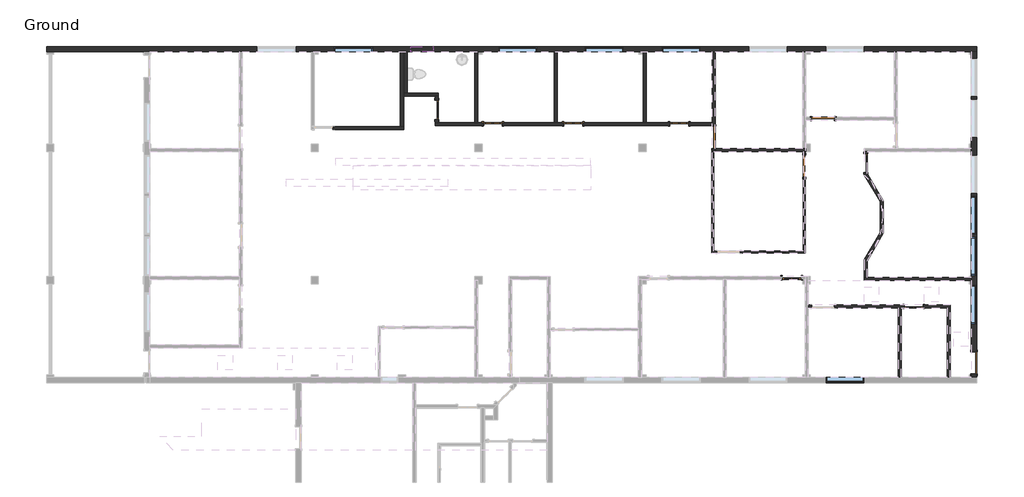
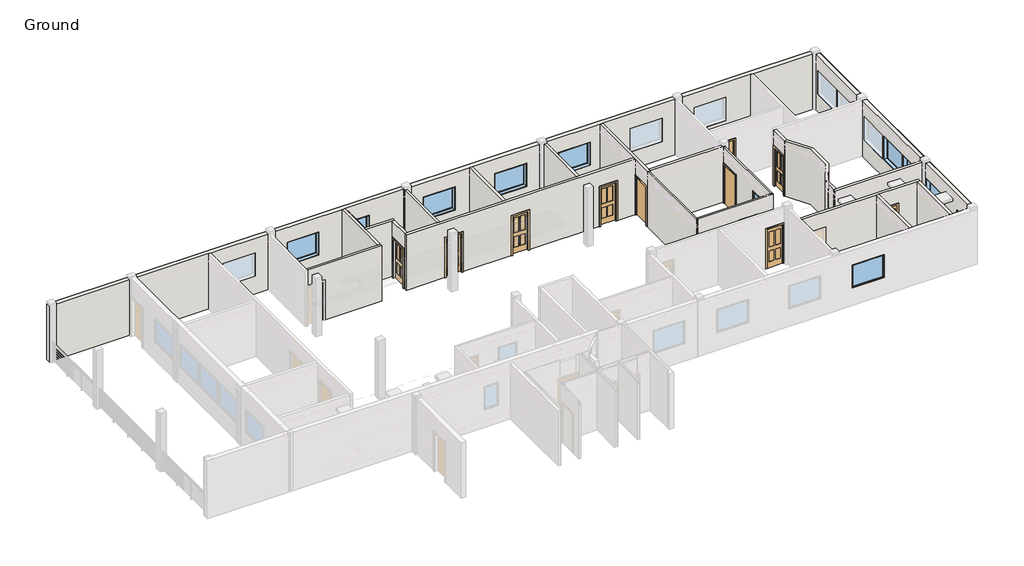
# One storey, part 3 of 4: 23 walls, 11 doors, 11 windows.
"""IFC4 building model written with IfcOpenShell, lengths in millimetres."""

from ifc_helpers import new_model, si_unit, point, frame, frame_2d, origin, origin_with_axes, place, context, project, spatial, polyline, circle_curve, trimmed, segment, composite_curve, outline, extrude, faceted_brep, transform, mapped, element, save
from components import door_43f271b1, door_0f3f7c0c, door_c0366a91, door_dce19e30, door_bfc1a142, door_dc1c1a0d, door_238e255b, fixed_3_x_3_w3_42a4cb5f, window_74e4fc61, window_a0bf6c86

model = new_model("IFC4")

# Units and contexts
model_context = context("Model", 3, world=origin())
ifc_project = project(units=[si_unit("LENGTHUNIT", "METRE", prefix="MILLI")], contexts=[model_context])

# Site, building, storey
site = spatial("IfcSite", under=ifc_project)
building = spatial("IfcBuilding", under=site)
storey = spatial("IfcBuildingStorey", under=building, Name="Ground", Elevation=0.0)

# Doors
placement = place(None, origin())
door_shape = door_43f271b1(model_context)
element("IfcDoor", 1, ObjectType="Single-Flush : 36\" x 80\" - D1", at=placement, inside=storey, context=model_context, shape_type="MappedRepresentation", body=[
    mapped(door_shape, transform((-16750.902824, 18800.73529, 0.0), x_axis=(0.0, -0.9999999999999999, 0.0), y_axis=(0.9999999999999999, 0.0, 0.0), z_axis=(0.0, 0.0, 1.0))),
])
door_2_shape = door_0f3f7c0c(model_context)
element("IfcDoor", 2, ObjectType="Single-Flush : 36\" x 80\" - D1", at=placement, inside=storey, context=model_context, shape_type="MappedRepresentation", body=[
    mapped(door_2_shape, transform((-12274.152824, 19570.67279, 0.0), x_axis=(-1.0, 0.0, 0.0), y_axis=(0.0, -1.0, 0.0), z_axis=(0.0, 0.0, 1.0))),
])
door_3_shape = door_c0366a91(model_context)
element("IfcDoor", 3, ObjectType="Single-Flush : 36\" x 80\" - D1", at=placement, inside=storey, context=model_context, shape_type="MappedRepresentation", body=[
    mapped(door_3_shape, transform((-13044.090324, 17627.57279, 0.0), x_axis=(0.0, 1.0, 0.0), y_axis=(-1.0, 0.0, 0.0), z_axis=(0.0, 0.0, 1.0))),
])
door_4_shape = door_dce19e30(model_context)
element("IfcDoor", 4, ObjectType="Single-Flush : 36\" x 80\" - D1", at=placement, inside=storey, context=model_context, shape_type="MappedRepresentation", body=[
    mapped(door_4_shape, transform((-6095.602824, 9569.42279, 0.0), x_axis=(0.0, -0.9999999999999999, 0.0), y_axis=(0.9999999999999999, 0.0, 0.0), z_axis=(0.0, 0.0, 1.0))),
])
door_5_shape = door_bfc1a142(model_context)
element("IfcDoor", 5, ObjectType="Single-Glass 3 : 30\" x 80\" - D3", at=placement, inside=storey, context=model_context, shape_type="MappedRepresentation", body=[
    mapped(door_5_shape, transform((-25786.952824, 19354.77279, 0.0), x_axis=(-1.0, 0.0, 0.0), y_axis=(0.0, -1.0, 0.0), z_axis=(0.0, 0.0, 1.0))),
])
element("IfcDoor", 6, ObjectType="Single-Glass 3 : 30\" x 80\" - D3", at=placement, inside=storey, context=model_context, shape_type="MappedRepresentation", body=[
    mapped(door_5_shape, transform((-10529.490324, 17754.57279, 0.0), x_axis=(0.0, 1.0, 0.0), y_axis=(-1.0, 0.0, 0.0), z_axis=(0.0, 0.0, 1.0))),
])
element("IfcDoor", 7, ObjectType="Single-Glass 3 : 30\" x 80\" - D3", at=placement, inside=storey, context=model_context, shape_type="MappedRepresentation", body=[
    mapped(door_5_shape, transform((-13556.852824, 13055.57279, 0.0), x_axis=(1.0, 0.0, 0.0), y_axis=(0.0, 1.0, 0.0), z_axis=(0.0, 0.0, 1.0))),
])
element("IfcDoor", 8, ObjectType="Single-Glass 3 : 30\" x 80\" - D3", at=placement, inside=storey, context=model_context, shape_type="MappedRepresentation", body=[
    mapped(door_5_shape, transform((-22497.652824, 19354.77279, 0.0), x_axis=(-1.0, 0.0, 0.0), y_axis=(0.0, -1.0, 0.0), z_axis=(0.0, 0.0, 1.0))),
])
door_6_shape = door_dc1c1a0d(model_context)
element("IfcDoor", 9, ObjectType="Single-Glass 3 : 30\" x 80\" - D3", at=placement, inside=storey, context=model_context, shape_type="MappedRepresentation", body=[
    mapped(door_6_shape, transform((-8567.340324, 11880.82279, 0.0), x_axis=(-0.9999999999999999, 0.0, 0.0), y_axis=(0.0, -0.9999999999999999, 0.0), z_axis=(0.0, 0.0, 1.0))),
])
element("IfcDoor", 10, ObjectType="Single-Glass 3 : 30\" x 80\" - D3", at=placement, inside=storey, context=model_context, shape_type="MappedRepresentation", body=[
    mapped(door_6_shape, transform((-18159.809074, 19354.77279, 0.0), x_axis=(1.0, 0.0, 0.0), y_axis=(0.0, 1.0, 0.0), z_axis=(0.0, 0.0, 1.0))),
])
door_7_shape = door_238e255b(model_context)
element("IfcDoor", 11, ObjectType="Single-Glass 3 : 32\" x 80\" - D2", at=placement, inside=storey, context=model_context, shape_type="MappedRepresentation", body=[
    mapped(door_7_shape, transform((-28079.302824, 19932.62279, 0.0), x_axis=(0.0, -1.0, 0.0), y_axis=(1.0, 0.0, 0.0), z_axis=(0.0, 0.0, 1.0))),
])

# Walls
element("IfcWall", 12, ObjectType="Generic - 6\"", at=placement, inside=storey, context=model_context, shape_type="SweptSolid", body=[
    extrude(outline(polyline([(-29439.790324, 20623.18529), (-29439.790324, 22307.52279), (-29287.390324, 22307.52279), (-29287.390324, 20623.18529), (-29439.790324, 20623.18529)])), origin_with_axes(), (0.0, 0.0, 1.0), 2743.2),
])
element("IfcWall", 13, ObjectType="Generic - 8\" Masonry existing", at=placement, inside=storey, context=model_context, shape_type="Brep", body=[
    faceted_brep([(-44043.202824, 22307.52279, 0.0), (-44043.202824, 22307.52279, 2895.6), (-44043.202824, 22513.89779, 2895.6), (-44043.202824, 22526.59779, 2895.6), (-44043.202824, 22526.59779, 0.0), (-5986.065324, 22307.52279, 0.0), (-6205.140324, 22307.52279, 0.0), (-9248.377824, 22307.52279, 0.0), (-9372.202824, 22307.52279, 0.0), (-12982.177824, 22307.52279, 0.0), (-13106.002824, 22307.52279, 0.0), (-16688.990324, 22307.52279, 0.0), (-16812.815324, 22307.52279, 0.0), (-19506.802824, 22307.52279, 0.0), (-19630.627824, 22307.52279, 0.0), (-23140.590324, 22307.52279, 0.0), (-23264.415324, 22307.52279, 0.0), (-26393.377824, 22307.52279, 0.0), (-26517.202824, 22307.52279, 0.0), (-29287.390324, 22307.52279, 0.0), (-29439.790324, 22307.52279, 0.0), (-29563.615324, 22307.52279, 0.0), (-33098.977824, 22307.52279, 0.0), (-33222.802824, 22307.52279, 0.0), (-36042.202824, 22307.52279, 0.0), (-36166.027824, 22307.52279, 0.0), (-39818.865324, 22307.52279, 0.0), (-40037.940324, 22307.52279, 0.0), (-5986.065324, 22526.59779, 0.0), (-5986.065324, 22307.52279, 2895.6), (-5998.765324, 22307.52279, 2895.6), (-6205.140324, 22307.52279, 2895.6), (-9248.377824, 22307.52279, 2895.6), (-9372.202824, 22307.52279, 2895.6), (-12982.177824, 22307.52279, 2895.6), (-13106.002824, 22307.52279, 2895.6), (-16688.990324, 22307.52279, 2895.6), (-16812.815324, 22307.52279, 2895.6), (-19506.802824, 22307.52279, 2895.6), (-19630.627824, 22307.52279, 2895.6), (-23140.590324, 22307.52279, 2895.6), (-23264.415324, 22307.52279, 2895.6), (-26393.377824, 22307.52279, 2895.6), (-26517.202824, 22307.52279, 2895.6), (-29439.790324, 22307.52279, 2895.6), (-29563.615324, 22307.52279, 2895.6), (-33098.977824, 22307.52279, 2895.6), (-33222.802824, 22307.52279, 2895.6), (-36042.202824, 22307.52279, 2895.6), (-36166.027824, 22307.52279, 2895.6), (-28220.590324, 22307.52279, 2133.6), (-28220.590324, 22307.52279, 1219.2), (-29134.990324, 22307.52279, 1219.2), (-29134.990324, 22307.52279, 2133.6), (-17297.002824, 22307.52279, 2133.6), (-17297.002824, 22307.52279, 914.4), (-18871.802824, 22307.52279, 914.4), (-18871.802824, 22307.52279, 2133.6), (-20446.602824, 22307.52279, 2133.6), (-20446.602824, 22307.52279, 914.4), (-22021.402824, 22307.52279, 914.4), (-22021.402824, 22307.52279, 2133.6), (-10591.402824, 22307.52279, 2133.6), (-10591.402824, 22307.52279, 914.4), (-12166.202824, 22307.52279, 914.4), (-12166.202824, 22307.52279, 2133.6), (-13741.002824, 22307.52279, 2133.6), (-13741.002824, 22307.52279, 914.4), (-15315.802824, 22307.52279, 914.4), (-15315.802824, 22307.52279, 2133.6), (-23977.202824, 22307.52279, 2133.6), (-23977.202824, 22307.52279, 914.4), (-25552.002824, 22307.52279, 914.4), (-25552.002824, 22307.52279, 2133.6), (-30708.202824, 22307.52279, 2133.6), (-30708.202824, 22307.52279, 914.4), (-32283.002824, 22307.52279, 914.4), (-32283.002824, 22307.52279, 2133.6), (-33857.802824, 22307.52279, 2133.6), (-33857.802824, 22307.52279, 914.4), (-35432.602824, 22307.52279, 914.4), (-35432.602824, 22307.52279, 2133.6), (-5998.765324, 22526.59779, 2895.6), (-5986.065324, 22526.59779, 2895.6), (-28220.590324, 22526.59779, 2133.6), (-29134.990324, 22526.59779, 2133.6), (-29134.990324, 22526.59779, 1219.2), (-28220.590324, 22526.59779, 1219.2), (-17297.002824, 22526.59779, 2133.6), (-18871.802824, 22526.59779, 2133.6), (-18871.802824, 22526.59779, 914.4), (-17297.002824, 22526.59779, 914.4), (-20446.602824, 22526.59779, 2133.6), (-22021.402824, 22526.59779, 2133.6), (-22021.402824, 22526.59779, 914.4), (-20446.602824, 22526.59779, 914.4), (-10591.402824, 22526.59779, 2133.6), (-12166.202824, 22526.59779, 2133.6), (-12166.202824, 22526.59779, 914.4), (-10591.402824, 22526.59779, 914.4), (-13741.002824, 22526.59779, 2133.6), (-15315.802824, 22526.59779, 2133.6), (-15315.802824, 22526.59779, 914.4), (-13741.002824, 22526.59779, 914.4), (-23977.202824, 22526.59779, 2133.6), (-25552.002824, 22526.59779, 2133.6), (-25552.002824, 22526.59779, 914.4), (-23977.202824, 22526.59779, 914.4), (-30708.202824, 22526.59779, 2133.6), (-32283.002824, 22526.59779, 2133.6), (-32283.002824, 22526.59779, 914.4), (-30708.202824, 22526.59779, 914.4), (-33857.802824, 22526.59779, 2133.6), (-35432.602824, 22526.59779, 2133.6), (-35432.602824, 22526.59779, 914.4), (-33857.802824, 22526.59779, 914.4), (-5986.065324, 22513.89779, 2895.6), (-5998.765324, 22513.89779, 2895.6)], [[[0, 1, 2, 3, 4]], [[5, 6, 7, 8, 9, 10, 11, 12, 13, 14, 15, 16, 17, 18, 19, 20, 21, 22, 23, 24, 25, 26, 27, 0, 4, 28]], [[0, 27, 26, 25, 24, 23, 22, 21, 20, 19, 18, 17, 16, 15, 14, 13, 12, 11, 10, 9, 8, 7, 6, 5, 29, 30, 31, 32, 33, 34, 35, 36, 37, 38, 39, 40, 41, 42, 43, 44, 45, 46, 47, 48, 49, 1], [50, 51, 52, 53], [54, 55, 56, 57], [58, 59, 60, 61], [62, 63, 64, 65], [66, 67, 68, 69], [70, 71, 72, 73], [74, 75, 76, 77], [78, 79, 80, 81]], [[4, 3, 82, 83, 28], [84, 85, 86, 87], [88, 89, 90, 91], [92, 93, 94, 95], [96, 97, 98, 99], [100, 101, 102, 103], [104, 105, 106, 107], [108, 109, 110, 111], [112, 113, 114, 115]], [[29, 5, 28, 83, 116]], [[30, 29, 116, 117]], [[82, 3, 2, 117]], [[116, 83, 82, 117]], [[1, 49, 48, 47, 46, 45, 44, 43, 42, 41, 40, 39, 38, 37, 36, 35, 34, 33, 32, 31, 30, 117, 2]], [[51, 50, 84, 87]], [[52, 51, 87, 86]], [[53, 52, 86, 85]], [[50, 53, 85, 84]], [[55, 54, 88, 91]], [[56, 55, 91, 90]], [[57, 56, 90, 89]], [[54, 57, 89, 88]], [[59, 58, 92, 95]], [[60, 59, 95, 94]], [[61, 60, 94, 93]], [[58, 61, 93, 92]], [[63, 62, 96, 99]], [[64, 63, 99, 98]], [[65, 64, 98, 97]], [[62, 65, 97, 96]], [[67, 66, 100, 103]], [[68, 67, 103, 102]], [[69, 68, 102, 101]], [[66, 69, 101, 100]], [[71, 70, 104, 107]], [[72, 71, 107, 106]], [[73, 72, 106, 105]], [[70, 73, 105, 104]], [[75, 74, 108, 111]], [[76, 75, 111, 110]], [[77, 76, 110, 109]], [[74, 77, 109, 108]], [[79, 78, 112, 115]], [[80, 79, 115, 114]], [[81, 80, 114, 113]], [[78, 81, 113, 112]]]),
])
element("IfcWall", 14, ObjectType="Generic - 8\" Masonry existing", at=placement, inside=storey, context=model_context, shape_type="Brep", body=[
    faceted_brep([(-6205.140324, 8972.52279, 0.0), (-6205.140324, 9112.22279, 0.0), (-5986.065324, 9112.22279, 0.0), (-5986.065324, 8972.52279, 0.0), (-6205.140324, 10026.62279, 0.0), (-6205.140324, 12949.21029, 0.0), (-6205.140324, 13073.03529, 0.0), (-6205.140324, 18219.71029, 0.0), (-6205.140324, 18343.53529, 0.0), (-6205.140324, 22307.52279, 0.0), (-5986.065324, 22307.52279, 0.0), (-5986.065324, 10026.62279, 0.0), (-5986.065324, 9112.22279, 2032.0), (-5986.065324, 10026.62279, 2032.0), (-5986.065324, 22307.52279, 2895.6), (-5986.065324, 8972.52279, 2895.6), (-5986.065324, 11169.62279, 2133.6), (-5986.065324, 12744.42279, 2133.6), (-5986.065324, 12744.42279, 914.4), (-5986.065324, 11169.62279, 914.4), (-5986.065324, 13150.82279, 2133.6), (-5986.065324, 14725.62279, 2133.6), (-5986.065324, 14725.62279, 914.4), (-5986.065324, 13150.82279, 914.4), (-5986.065324, 14827.22279, 2133.6), (-5986.065324, 16402.02279, 2133.6), (-5986.065324, 16402.02279, 914.4), (-5986.065324, 14827.22279, 914.4), (-5986.065324, 16503.62279, 2133.6), (-5986.065324, 18078.42279, 2133.6), (-5986.065324, 18078.42279, 914.4), (-5986.065324, 16503.62279, 914.4), (-5986.065324, 18789.62279, 2133.6), (-5986.065324, 20364.42279, 2133.6), (-5986.065324, 20364.42279, 914.4), (-5986.065324, 18789.62279, 914.4), (-5986.065324, 20466.02279, 2133.6), (-5986.065324, 22040.82279, 2133.6), (-5986.065324, 22040.82279, 914.4), (-5986.065324, 20466.02279, 914.4), (-6205.140324, 9112.22279, 2032.0), (-6205.140324, 8972.52279, 2895.6), (-6205.140324, 12949.21029, 2895.6), (-6205.140324, 13073.03529, 2895.6), (-6205.140324, 18219.71029, 2895.6), (-6205.140324, 18343.53529, 2895.6), (-6205.140324, 22307.52279, 2895.6), (-6205.140324, 10026.62279, 2032.0), (-6205.140324, 11169.62279, 2133.6), (-6205.140324, 11169.62279, 914.4), (-6205.140324, 12744.42279, 914.4), (-6205.140324, 12744.42279, 2133.6), (-6205.140324, 13150.82279, 2133.6), (-6205.140324, 13150.82279, 914.4), (-6205.140324, 14725.62279, 914.4), (-6205.140324, 14725.62279, 2133.6), (-6205.140324, 14827.22279, 2133.6), (-6205.140324, 14827.22279, 914.4), (-6205.140324, 16402.02279, 914.4), (-6205.140324, 16402.02279, 2133.6), (-6205.140324, 16503.62279, 2133.6), (-6205.140324, 16503.62279, 914.4), (-6205.140324, 18078.42279, 914.4), (-6205.140324, 18078.42279, 2133.6), (-6205.140324, 18789.62279, 2133.6), (-6205.140324, 18789.62279, 914.4), (-6205.140324, 20364.42279, 914.4), (-6205.140324, 20364.42279, 2133.6), (-6205.140324, 20466.02279, 2133.6), (-6205.140324, 20466.02279, 914.4), (-6205.140324, 22040.82279, 914.4), (-6205.140324, 22040.82279, 2133.6), (-5998.765324, 22307.52279, 2895.6), (-5998.765324, 8972.52279, 2895.6)], [[[0, 1, 2, 3]], [[4, 5, 6, 7, 8, 9, 10, 11]], [[3, 2, 12, 13, 11, 10, 14, 15], [16, 17, 18, 19], [20, 21, 22, 23], [24, 25, 26, 27], [28, 29, 30, 31], [32, 33, 34, 35], [36, 37, 38, 39]], [[40, 1, 0, 41, 42, 43, 44, 45, 46, 9, 8, 7, 6, 5, 4, 47], [48, 49, 50, 51], [52, 53, 54, 55], [56, 57, 58, 59], [60, 61, 62, 63], [64, 65, 66, 67], [68, 69, 70, 71]], [[14, 10, 9, 46, 72]], [[3, 15, 73, 41, 0]], [[15, 14, 72, 73]], [[72, 46, 45, 44, 43, 42, 41, 73]], [[12, 2, 1, 40]], [[13, 12, 40, 47]], [[11, 13, 47, 4]], [[49, 48, 16, 19]], [[50, 49, 19, 18]], [[51, 50, 18, 17]], [[48, 51, 17, 16]], [[53, 52, 20, 23]], [[54, 53, 23, 22]], [[55, 54, 22, 21]], [[52, 55, 21, 20]], [[57, 56, 24, 27]], [[58, 57, 27, 26]], [[59, 58, 26, 25]], [[56, 59, 25, 24]], [[61, 60, 28, 31]], [[62, 61, 31, 30]], [[63, 62, 30, 29]], [[60, 63, 29, 28]], [[65, 64, 32, 35]], [[66, 65, 35, 34]], [[67, 66, 34, 33]], [[64, 67, 33, 32]], [[69, 68, 36, 39]], [[70, 69, 39, 38]], [[71, 70, 38, 37]], [[68, 71, 37, 36]]]),
])
element("IfcWall", 15, ObjectType="Interior - 3 1/8\" Partition (1-hr)", at=placement, inside=storey, context=model_context, shape_type="Brep", body=[
    faceted_brep([(-16820.752824, 18219.71029, 0.0), (-16820.752824, 14071.57279, 0.0), (-16820.752824, 14071.57279, 2895.6), (-16820.752824, 18219.71029, 2895.6), (-16741.377824, 18219.71029, 0.0), (-16741.377824, 18219.71029, 2895.6), (-16741.377824, 14150.94779, 2895.6), (-16741.377824, 14071.57279, 2895.6), (-16741.377824, 14071.57279, 0.0), (-16741.377824, 14150.94779, 0.0), (-16812.815324, 18219.71029, 0.0), (-16812.815324, 18219.71029, 2895.6)], [[[0, 1, 2, 3]], [[4, 5, 6, 7, 8, 9]], [[1, 0, 10, 4, 9, 8]], [[3, 2, 7, 6, 5, 11]], [[2, 1, 8, 7]], [[0, 3, 11, 5, 4, 10]]]),
])
element("IfcWall", 16, ObjectType="Interior - 3 1/8\" Partition (1-hr)", at=placement, inside=storey, context=model_context, shape_type="Brep", body=[
    faceted_brep([(-16741.377824, 14071.57279, 0.0), (-16598.502824, 14071.57279, 0.0), (-16598.502824, 14071.57279, 2032.0), (-15684.102824, 14071.57279, 2032.0), (-15684.102824, 14071.57279, 0.0), (-13004.402824, 14071.57279, 0.0), (-13004.402824, 14071.57279, 2895.6), (-16741.377824, 14071.57279, 2895.6), (-14720.490324, 14071.57279, 2133.6), (-13806.090324, 14071.57279, 2133.6), (-13806.090324, 14071.57279, 914.4), (-14720.490324, 14071.57279, 914.4), (-16598.502824, 14150.94779, 2032.0), (-16598.502824, 14150.94779, 0.0), (-16741.377824, 14150.94779, 0.0), (-16741.377824, 14150.94779, 2895.6), (-13083.777824, 14150.94779, 2895.6), (-13004.402824, 14150.94779, 2895.6), (-13004.402824, 14150.94779, 0.0), (-13083.777824, 14150.94779, 0.0), (-15684.102824, 14150.94779, 0.0), (-15684.102824, 14150.94779, 2032.0), (-14720.490324, 14150.94779, 2133.6), (-14720.490324, 14150.94779, 914.4), (-13806.090324, 14150.94779, 914.4), (-13806.090324, 14150.94779, 2133.6)], [[[0, 1, 2, 3, 4, 5, 6, 7], [8, 9, 10, 11]], [[12, 13, 14, 15, 16, 17, 18, 19, 20, 21], [22, 23, 24, 25]], [[14, 13, 1, 0]], [[20, 19, 18, 5, 4]], [[7, 6, 17, 16, 15]], [[0, 7, 15, 14]], [[6, 5, 18, 17]], [[2, 1, 13, 12]], [[3, 2, 12, 21]], [[4, 3, 21, 20]], [[23, 22, 8, 11]], [[24, 23, 11, 10]], [[25, 24, 10, 9]], [[22, 25, 9, 8]]]),
])
element("IfcWall", 17, ObjectType="Interior - 3 1/8\" Partition (1-hr)", at=placement, inside=storey, context=model_context, shape_type="SweptSolid", body=[
    extrude(outline(polyline([(18219.71029, 0.0), (18084.77279, 0.0), (18084.77279, 2032.0), (17170.37279, 2032.0), (17170.37279, 0.0), (14150.94779, 0.0), (14150.94779, 2895.6), (18219.71029, 2895.6), (18219.71029, 0.0)]), holes=[polyline([(14760.54779, 2133.6), (14760.54779, 914.4), (15674.94779, 914.4), (15674.94779, 2133.6), (14760.54779, 2133.6)])]), frame((-13083.777824, 0.0, 0.0), z_axis=(1.0, 0.0, 0.0), x_axis=(0.0, 1.0, 0.0)), (0.0, 0.0, 1.0), 79.375),
])
element("IfcWall", 18, ObjectType="Interior - 5 1/2\" Partition (1-hr)", at=placement, inside=storey, context=model_context, shape_type="Brep", body=[
    faceted_brep([(-6205.140324, 13073.03529, 0.0), (-10467.577824, 13073.03529, 0.0), (-10591.402824, 13073.03529, 0.0), (-10591.402824, 13073.03529, 2895.6), (-10467.577824, 13073.03529, 2895.6), (-6205.140324, 13073.03529, 2895.6), (-6205.140324, 12949.21029, 0.0), (-6205.140324, 12949.21029, 2895.6), (-10591.402824, 12949.21029, 2895.6), (-10591.402824, 12949.21029, 0.0)], [[[0, 1, 2, 3, 4, 5]], [[6, 7, 8, 9]], [[2, 1, 0, 6, 9]], [[5, 4, 3, 8, 7]], [[3, 2, 9, 8]], [[0, 5, 7, 6]]]),
])
element("IfcWall", 19, ObjectType="Interior - 5 1/2\" Partition (1-hr)", at=placement, inside=storey, context=model_context, shape_type="Brep", body=[
    faceted_brep([(-12982.177824, 18343.53529, 0.0), (-13106.002824, 18343.53529, 0.0), (-16688.990324, 18343.53529, 0.0), (-16688.990324, 18343.53529, 2895.6), (-13106.002824, 18343.53529, 2895.6), (-12982.177824, 18343.53529, 2895.6), (-12982.177824, 18219.71029, 0.0), (-12982.177824, 18219.71029, 2895.6), (-13004.402824, 18219.71029, 2895.6), (-13083.777824, 18219.71029, 2895.6), (-16688.990324, 18219.71029, 2895.6), (-16688.990324, 18219.71029, 0.0), (-13083.777824, 18219.71029, 0.0), (-13004.402824, 18219.71029, 0.0)], [[[0, 1, 2, 3, 4, 5]], [[6, 7, 8, 9, 10, 11, 12, 13]], [[2, 1, 0, 6, 13, 12, 11]], [[5, 4, 3, 10, 9, 8, 7]], [[0, 5, 7, 6]], [[3, 2, 11, 10]]]),
])
element("IfcWall", 20, ObjectType="Interior - 5 1/2\" Partition (1-hr)", at=placement, inside=storey, context=model_context, shape_type="Brep", body=[
    faceted_brep([(-16812.815324, 18219.71029, 0.0), (-16812.815324, 18343.53529, 0.0), (-16688.990324, 18343.53529, 0.0), (-16688.990324, 18219.71029, 0.0), (-16741.377824, 18219.71029, 0.0), (-16812.815324, 19257.93529, 0.0), (-16812.815324, 19292.86029, 0.0), (-16812.815324, 19416.68529, 0.0), (-16812.815324, 22307.52279, 0.0), (-16688.990324, 22307.52279, 0.0), (-16688.990324, 19257.93529, 0.0), (-16688.990324, 18219.71029, 2895.6), (-16688.990324, 18343.53529, 2895.6), (-16688.990324, 22307.52279, 2895.6), (-16812.815324, 22307.52279, 2895.6), (-16812.815324, 19416.68529, 2895.6), (-16812.815324, 19292.86029, 2895.6), (-16812.815324, 18219.71029, 2895.6), (-16741.377824, 18219.71029, 2895.6), (-16688.990324, 18343.53529, 2032.0), (-16688.990324, 19257.93529, 2032.0), (-16812.815324, 18343.53529, 2032.0), (-16812.815324, 19257.93529, 2032.0)], [[[0, 1, 2, 3, 4]], [[5, 6, 7, 8, 9, 10]], [[11, 12, 13, 14, 15, 16, 17, 18]], [[3, 2, 19, 20, 10, 9, 13, 12, 11]], [[21, 1, 0, 17, 16, 15, 14, 8, 7, 6, 5, 22]], [[13, 9, 8, 14]], [[3, 11, 18, 17, 0, 4]], [[19, 2, 1, 21]], [[20, 19, 21, 22]], [[10, 20, 22, 5]]]),
])
element("IfcWall", 21, ObjectType="Interior - 5 1/2\" Partition (1-hr)", at=placement, inside=storey, context=model_context, shape_type="SweptSolid", body=[
    extrude(outline(composite_curve([segment(polyline([(-10467.577824, 13753.2813276), (-10591.402824, 13806.060194)]), True, "CONTINUOUS"), segment(trimmed(circle_curve(frame_2d((-12218.244142, 15538.42279)), 2376.4875), [point((-10591.402824, 13806.060194))], [point((-10591.402824, 17270.785386))], True, "CARTESIAN"), True, "CONTINUOUS"), segment(polyline([(-10591.402824, 17270.785386), (-10467.577824, 17323.5642525)]), True, "CONTINUOUS"), segment(trimmed(circle_curve(frame_2d((-12218.244142, 15538.42279)), 2500.3125), [point((-10467.577824, 17323.5642525))], [point((-10467.577824, 13753.2813276))], False, "CARTESIAN"), True, "CONTINUOUS")], self_intersect=False)), origin_with_axes(), (0.0, 0.0, 1.0), 2895.6),
])
element("IfcWall", 22, ObjectType="Interior - 5 1/2\" Partition (1-hr)", at=placement, inside=storey, context=model_context, shape_type="SweptSolid", body=[
    extrude(outline(polyline([(-10591.402824, 13073.03529), (-10591.402824, 13806.060194), (-10467.577824, 13753.2813276), (-10467.577824, 13073.03529), (-10591.402824, 13073.03529)])), origin_with_axes(), (0.0, 0.0, 1.0), 2895.6),
])
element("IfcWall", 23, ObjectType="Interior - 5 1/2\" Partition (1-hr)", at=placement, inside=storey, context=model_context, shape_type="Brep", body=[
    faceted_brep([(-10467.577824, 18219.71029, 0.0), (-10467.577824, 18135.4487735, 0.0), (-10591.402824, 18135.4487735, 0.0), (-10591.402824, 18219.71029, 0.0), (-10467.577824, 17373.4487735, 0.0), (-10467.577824, 17323.5642525, 0.0), (-10591.402824, 17270.785386, 0.0), (-10591.402824, 17373.4487735, 0.0), (-10591.402824, 18219.71029, 2895.6), (-10591.402824, 17270.785386, 2895.6), (-10467.577824, 17323.5642525, 2895.6), (-10467.577824, 18219.71029, 2895.6), (-10591.402824, 18135.4487735, 2032.0), (-10591.402824, 17373.4487735, 2032.0), (-10467.577824, 18135.4487735, 2032.0), (-10467.577824, 17373.4487735, 2032.0)], [[[0, 1, 2, 3]], [[4, 5, 6, 7]], [[8, 9, 10, 11]], [[3, 2, 12, 13, 7, 6, 9, 8]], [[14, 1, 0, 11, 10, 5, 4, 15]], [[9, 6, 5, 10]], [[3, 8, 11, 0]], [[12, 2, 1, 14]], [[13, 12, 14, 15]], [[7, 13, 15, 4]]]),
])
element("IfcWall", 24, ObjectType="Interior - 5 1/2\" Partition (1-hr)", at=placement, inside=storey, context=model_context, shape_type="Brep", body=[
    faceted_brep([(-29439.790324, 19242.06029, 0.0), (-29439.790324, 19118.23529, 0.0), (-32336.8538075, 19118.23529, 0.0), (-32336.8538075, 19242.06029, 0.0), (-29563.615324, 19242.06029, 0.0), (-33098.977824, 19118.23529, 2895.6), (-29439.790324, 19118.23529, 2895.6), (-29439.790324, 19242.06029, 2895.6), (-29563.615324, 19242.06029, 2895.6), (-33098.977824, 19242.06029, 2895.6), (-33098.977824, 19118.23529, 2032.0), (-32336.8538075, 19118.23529, 2032.0), (-32336.8538075, 19242.06029, 2032.0), (-33098.977824, 19242.06029, 2032.0)], [[[0, 1, 2, 3, 4]], [[5, 6, 7, 8, 9]], [[6, 5, 10, 11, 2, 1]], [[9, 8, 7, 0, 4, 3, 12, 13]], [[5, 9, 13, 10]], [[6, 1, 0, 7]], [[12, 11, 10, 13]], [[11, 12, 3, 2]]]),
])
element("IfcWall", 25, ObjectType="Interior - 5 1/2\" Partition (1-hr)", at=placement, inside=storey, context=model_context, shape_type="Brep", body=[
    faceted_brep([(-29439.790324, 19242.06029, 0.0), (-29439.790324, 20499.36029, 0.0), (-29439.790324, 20623.18529, 0.0), (-29439.790324, 22307.52279, 0.0), (-29439.790324, 22307.52279, 2895.6), (-29439.790324, 20623.18529, 2895.6), (-29439.790324, 20499.36029, 2895.6), (-29439.790324, 19242.06029, 2895.6), (-29563.615324, 19242.06029, 0.0), (-29563.615324, 19242.06029, 2895.6), (-29563.615324, 22307.52279, 2895.6), (-29563.615324, 22307.52279, 0.0)], [[[0, 1, 2, 3, 4, 5, 6, 7]], [[8, 9, 10, 11]], [[3, 2, 1, 0, 8, 11]], [[7, 6, 5, 4, 10, 9]], [[4, 3, 11, 10]], [[0, 7, 9, 8]]]),
])
element("IfcWall", 26, ObjectType="Interior - 5 1/2\" Partition (1-hr)", at=placement, inside=storey, context=model_context, shape_type="SweptSolid", body=[
    extrude(outline(polyline([(-26517.202824, 19416.68529), (-26517.202824, 22307.52279), (-26393.377824, 22307.52279), (-26393.377824, 19416.68529), (-26517.202824, 19416.68529)])), origin_with_axes(), (0.0, 0.0, 1.0), 2895.6),
])
element("IfcWall", 27, ObjectType="Interior - 5 1/2\" Partition (1-hr)", at=placement, inside=storey, context=model_context, shape_type="SweptSolid", body=[
    extrude(outline(polyline([(-23140.590324, 22307.52279), (-23140.590324, 19416.68529), (-23264.415324, 19416.68529), (-23264.415324, 22307.52279), (-23140.590324, 22307.52279)])), origin_with_axes(), (0.0, 0.0, 1.0), 2895.6),
])
element("IfcWall", 28, ObjectType="Interior - 5 1/2\" Partition (1-hr)", at=placement, inside=storey, context=model_context, shape_type="Brep", body=[
    faceted_brep([(-8948.2163075, 11942.73529, 2032.0), (-8948.2163075, 11942.73529, 0.0), (-11816.952824, 11942.73529, 0.0), (-11816.952824, 11942.73529, 2032.0), (-12731.352824, 11942.73529, 2032.0), (-12731.352824, 11942.73529, 0.0), (-12891.690324, 11942.73529, 0.0), (-12891.690324, 11942.73529, 2895.6), (-7071.915324, 11942.73529, 2895.6), (-7071.915324, 11942.73529, 0.0), (-8186.2163075, 11942.73529, 0.0), (-8186.2163075, 11942.73529, 2032.0), (-11816.952824, 11818.91029, 0.0), (-9207.102824, 11818.91029, 0.0), (-9083.277824, 11818.91029, 0.0), (-8948.2163075, 11818.91029, 0.0), (-8948.2163075, 11818.91029, 2032.0), (-8186.2163075, 11818.91029, 2032.0), (-8186.2163075, 11818.91029, 0.0), (-7195.740324, 11818.91029, 0.0), (-7071.915324, 11818.91029, 0.0), (-7071.915324, 11818.91029, 2895.6), (-7195.740324, 11818.91029, 2895.6), (-9083.277824, 11818.91029, 2895.6), (-9207.102824, 11818.91029, 2895.6), (-12891.690324, 11818.91029, 2895.6), (-12891.690324, 11818.91029, 0.0), (-12731.352824, 11818.91029, 0.0), (-12731.352824, 11818.91029, 2032.0), (-11816.952824, 11818.91029, 2032.0)], [[[0, 1, 2, 3, 4, 5, 6, 7, 8, 9, 10, 11]], [[12, 13, 14, 15, 16, 17, 18, 19, 20, 21, 22, 23, 24, 25, 26, 27, 28, 29]], [[6, 5, 27, 26]], [[2, 1, 15, 14, 13, 12]], [[10, 9, 20, 19, 18]], [[8, 7, 25, 24, 23, 22, 21]], [[9, 8, 21, 20]], [[7, 6, 26, 25]], [[28, 27, 5, 4]], [[29, 28, 4, 3]], [[12, 29, 3, 2]], [[16, 15, 1, 0]], [[17, 16, 0, 11]], [[18, 17, 11, 10]]]),
])
element("IfcWall", 29, ObjectType="Interior - 5 1/2\" Partition (1-hr)", at=placement, inside=storey, context=model_context, shape_type="SweptSolid", body=[
    extrude(outline(polyline([(-19630.627824, 19416.68529), (-19630.627824, 22307.52279), (-19506.802824, 22307.52279), (-19506.802824, 19416.68529), (-19630.627824, 19416.68529)])), origin_with_axes(), (0.0, 0.0, 1.0), 2895.6),
])
element("IfcWall", 30, ObjectType="Interior - 5 1/2\" Partition (1-hr)", at=placement, inside=storey, context=model_context, shape_type="Brep", body=[
    faceted_brep([(-29439.790324, 20499.36029, 0.0), (-28141.215324, 20499.36029, 0.0), (-28017.390324, 20499.36029, 0.0), (-28017.390324, 20499.36029, 2895.6), (-28141.215324, 20499.36029, 2895.6), (-29439.790324, 20499.36029, 2895.6), (-29439.790324, 20623.18529, 0.0), (-29439.790324, 20623.18529, 2743.2), (-29439.790324, 20623.18529, 2895.6), (-28017.390324, 20623.18529, 2895.6), (-28017.390324, 20623.18529, 0.0), (-29287.390324, 20623.18529, 0.0)], [[[0, 1, 2, 3, 4, 5]], [[6, 7, 8, 9, 10, 11]], [[2, 1, 0, 6, 11, 10]], [[5, 4, 3, 9, 8]], [[3, 2, 10, 9]], [[0, 5, 8, 7, 6]]]),
])
element("IfcWall", 31, ObjectType="Interior - 5 1/2\" Partition (1-hr)", at=placement, inside=storey, context=model_context, shape_type="SweptSolid", body=[
    extrude(outline(polyline([(19416.68529, 2895.6), (20499.36029, 2895.6), (20499.36029, 0.0), (20339.1468066, 0.0), (20339.1468066, 2032.0), (19526.3468066, 2032.0), (19526.3468066, 0.0), (19416.68529, 0.0), (19416.68529, 2895.6)])), frame((-28141.215324, 0.0, 0.0), z_axis=(1.0, 0.0, 0.0), x_axis=(0.0, 1.0, 0.0)), (0.0, 0.0, 1.0), 123.825),
])
element("IfcWall", 32, ObjectType="Interior - 5 1/2\" Partition (1-hr)", at=placement, inside=storey, context=model_context, shape_type="Brep", body=[
    faceted_brep([(-28141.215324, 19416.68529, 0.0), (-28017.390324, 19416.68529, 0.0), (-26517.202824, 19416.68529, 0.0), (-26393.377824, 19416.68529, 0.0), (-26167.8288075, 19416.68529, 0.0), (-26167.8288075, 19292.86029, 0.0), (-28141.215324, 19292.86029, 0.0), (-25405.8288075, 19416.68529, 0.0), (-23264.415324, 19416.68529, 0.0), (-23140.590324, 19416.68529, 0.0), (-22878.5288075, 19416.68529, 0.0), (-22878.5288075, 19292.86029, 0.0), (-25405.8288075, 19292.86029, 0.0), (-16812.815324, 19292.86029, 0.0), (-17778.9330906, 19292.86029, 0.0), (-17778.9330906, 19416.68529, 0.0), (-16812.815324, 19416.68529, 0.0), (-18540.9330906, 19292.86029, 0.0), (-22116.5288075, 19292.86029, 0.0), (-22116.5288075, 19416.68529, 0.0), (-19630.627824, 19416.68529, 0.0), (-19506.802824, 19416.68529, 0.0), (-18540.9330906, 19416.68529, 0.0), (-28141.215324, 19292.86029, 2895.6), (-16812.815324, 19292.86029, 2895.6), (-16812.815324, 19416.68529, 2895.6), (-19506.802824, 19416.68529, 2895.6), (-19630.627824, 19416.68529, 2895.6), (-23140.590324, 19416.68529, 2895.6), (-23264.415324, 19416.68529, 2895.6), (-26393.377824, 19416.68529, 2895.6), (-26517.202824, 19416.68529, 2895.6), (-28017.390324, 19416.68529, 2895.6), (-28141.215324, 19416.68529, 2895.6), (-17778.9330906, 19292.86029, 2032.0), (-26167.8288075, 19292.86029, 2032.0), (-25405.8288075, 19292.86029, 2032.0), (-22878.5288075, 19292.86029, 2032.0), (-22116.5288075, 19292.86029, 2032.0), (-18540.9330906, 19292.86029, 2032.0), (-17778.9330906, 19416.68529, 2032.0), (-18540.9330906, 19416.68529, 2032.0), (-22116.5288075, 19416.68529, 2032.0), (-22878.5288075, 19416.68529, 2032.0), (-25405.8288075, 19416.68529, 2032.0), (-26167.8288075, 19416.68529, 2032.0)], [[[0, 1, 2, 3, 4, 5, 6]], [[7, 8, 9, 10, 11, 12]], [[13, 14, 15, 16]], [[17, 18, 19, 20, 21, 22]], [[23, 24, 25, 26, 27, 28, 29, 30, 31, 32, 33]], [[34, 14, 13, 24, 23, 6, 5, 35, 36, 12, 11, 37, 38, 18, 17, 39]], [[16, 15, 40, 41, 22, 21, 20, 19, 42, 43, 10, 9, 8, 7, 44, 45, 4, 3, 2, 1, 0, 33, 32, 31, 30, 29, 28, 27, 26, 25]], [[6, 23, 33, 0]], [[24, 13, 16, 25]], [[35, 5, 4, 45]], [[36, 35, 45, 44]], [[12, 36, 44, 7]], [[37, 11, 10, 43]], [[38, 37, 43, 42]], [[18, 38, 42, 19]], [[40, 15, 14, 34]], [[41, 40, 34, 39]], [[22, 41, 39, 17]]]),
])
element("IfcWall", 33, ObjectType="Interior - 5 1/2\" Partition (1-hr)", at=placement, inside=storey, context=model_context, shape_type="SweptSolid", body=[
    extrude(outline(polyline([(-9207.102824, 8972.52279), (-9207.102824, 11818.91029), (-9083.277824, 11818.91029), (-9083.277824, 8972.52279), (-9207.102824, 8972.52279)])), origin_with_axes(), (0.0, 0.0, 1.0), 2895.6),
])
element("IfcWall", 34, ObjectType="Interior - 5 1/2\" Partition (1-hr)", at=placement, inside=storey, context=model_context, shape_type="SweptSolid", body=[
    extrude(outline(polyline([(-7195.740324, 8972.52279), (-7195.740324, 11818.91029), (-7071.915324, 11818.91029), (-7071.915324, 8972.52279), (-7195.740324, 8972.52279)])), origin_with_axes(), (0.0, 0.0, 1.0), 2895.6),
])

# Windows
fixed_3_x_3_w3_shape = fixed_3_x_3_w3_42a4cb5f(model_context)
element("IfcWindow", 35, ObjectType="Fixed : 3'x 3' - W3", at=placement, inside=storey, context=model_context, shape_type="MappedRepresentation", body=[
    mapped(fixed_3_x_3_w3_shape, transform((-28639.690324, 22417.06029, -304.8), x_axis=(1.0, 0.0, 0.0), y_axis=(0.0, 1.0, 0.0), z_axis=(0.0, 0.0, 1.0))),
])
window_shape = window_74e4fc61(model_context)
element("IfcWindow", 36, ObjectType="Fixed : 36\" x 48\" - W2", at=placement, inside=storey, context=model_context, shape_type="MappedRepresentation", body=[
    mapped(window_shape, transform((-14301.390324, 14111.26029, 0.0), x_axis=(-0.9999999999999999, 0.0, 0.0), y_axis=(0.0, -0.9999999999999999, 0.0), z_axis=(0.0, 0.0, 1.0))),
])
element("IfcWindow", 37, ObjectType="Fixed : 36\" x 48\" - W2", at=placement, inside=storey, context=model_context, shape_type="MappedRepresentation", body=[
    mapped(window_shape, transform((-13044.090324, 15179.64779, 0.0), x_axis=(0.0, -1.0, 0.0), y_axis=(1.0, 0.0, 0.0), z_axis=(0.0, 0.0, 1.0))),
])
window_2_shape = window_a0bf6c86(model_context)
element("IfcWindow", 38, ObjectType="Fixed : 60\" x 48\" - W1", at=placement, inside=storey, context=model_context, shape_type="MappedRepresentation", body=[
    mapped(window_2_shape, transform((-31457.502824, 22417.06029, 0.0), x_axis=(1.0, 0.0, 0.0), y_axis=(0.0, 1.0, 0.0), z_axis=(0.0, 0.0, 1.0))),
])
element("IfcWindow", 39, ObjectType="Fixed : 60\" x 48\" - W1", at=placement, inside=storey, context=model_context, shape_type="MappedRepresentation", body=[
    mapped(window_2_shape, transform((-24726.502824, 22417.06029, 0.0), x_axis=(1.0, 0.0, 0.0), y_axis=(0.0, 1.0, 0.0), z_axis=(0.0, 0.0, 1.0))),
])
element("IfcWindow", 40, ObjectType="Fixed : 60\" x 48\" - W1", at=placement, inside=storey, context=model_context, shape_type="MappedRepresentation", body=[
    mapped(window_2_shape, transform((-21195.902824, 22417.06029, 0.0), x_axis=(1.0, 0.0, 0.0), y_axis=(0.0, 1.0, 0.0), z_axis=(0.0, 0.0, 1.0))),
])
element("IfcWindow", 41, ObjectType="Fixed : 60\" x 48\" - W1", at=placement, inside=storey, context=model_context, shape_type="MappedRepresentation", body=[
    mapped(window_2_shape, transform((-11416.902824, 8862.98529, 0.0), x_axis=(-1.0, 0.0, 0.0), y_axis=(0.0, -1.0, 0.0), z_axis=(0.0, 0.0, 1.0))),
])
element("IfcWindow", 42, ObjectType="Fixed : 60\" x 48\" - W1", at=placement, inside=storey, context=model_context, shape_type="MappedRepresentation", body=[
    mapped(window_2_shape, transform((-6095.602824, 15576.52279, 0.0), x_axis=(0.0, -0.9999999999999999, 0.0), y_axis=(0.9999999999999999, 0.0, 0.0), z_axis=(0.0, 0.0, 1.0))),
])
element("IfcWindow", 43, ObjectType="Fixed : 60\" x 48\" - W1", at=placement, inside=storey, context=model_context, shape_type="MappedRepresentation", body=[
    mapped(window_2_shape, transform((-6095.602824, 13900.12279, 0.0), x_axis=(0.0, -0.9999999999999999, 0.0), y_axis=(0.9999999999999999, 0.0, 0.0), z_axis=(0.0, 0.0, 1.0))),
])
element("IfcWindow", 44, ObjectType="Fixed : 60\" x 48\" - W1", at=placement, inside=storey, context=model_context, shape_type="MappedRepresentation", body=[
    mapped(window_2_shape, transform((-6095.602824, 11918.92279, 0.0), x_axis=(0.0, -0.9999999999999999, 0.0), y_axis=(0.9999999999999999, 0.0, 0.0), z_axis=(0.0, 0.0, 1.0))),
])
element("IfcWindow", 45, ObjectType="Fixed : 60\" x 48\" - W1", at=placement, inside=storey, context=model_context, shape_type="MappedRepresentation", body=[
    mapped(window_2_shape, transform((-18046.302824, 22417.06029, 0.0), x_axis=(1.0, 0.0, 0.0), y_axis=(0.0, 1.0, 0.0), z_axis=(0.0, 0.0, 1.0))),
])

save(model, "model.ifc")
